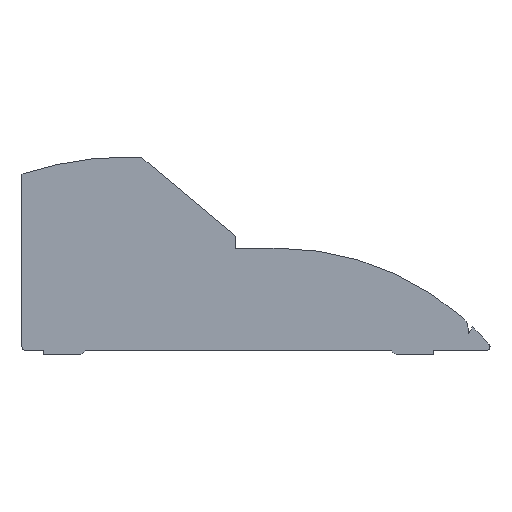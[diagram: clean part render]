
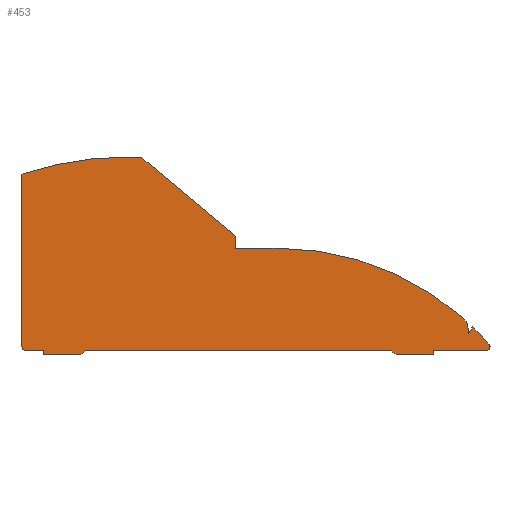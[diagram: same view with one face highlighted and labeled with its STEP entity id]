
A CAD part, left-side view. The second image highlights one B-rep face of the part: STEP entity #453.
In plain terms, the highlighted planar face has unit normal (-1, 0, 0).
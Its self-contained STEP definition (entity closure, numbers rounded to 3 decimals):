
#20=CIRCLE('',#489,162.1);
#29=CIRCLE('',#500,6.);
#30=CIRCLE('',#501,6.);
#31=CIRCLE('',#502,2.);
#32=CIRCLE('',#503,136.5);
#33=CIRCLE('',#504,7.3);
#34=CIRCLE('',#505,136.5);
#35=CIRCLE('',#506,2.);
#74=ORIENTED_EDGE('',*,*,#204,.F.);
#75=ORIENTED_EDGE('',*,*,#205,.T.);
#76=ORIENTED_EDGE('',*,*,#206,.T.);
#77=ORIENTED_EDGE('',*,*,#207,.T.);
#78=ORIENTED_EDGE('',*,*,#176,.F.);
#79=ORIENTED_EDGE('',*,*,#208,.F.);
#80=ORIENTED_EDGE('',*,*,#209,.F.);
#81=ORIENTED_EDGE('',*,*,#210,.F.);
#82=ORIENTED_EDGE('',*,*,#211,.F.);
#83=ORIENTED_EDGE('',*,*,#212,.T.);
#84=ORIENTED_EDGE('',*,*,#213,.F.);
#85=ORIENTED_EDGE('',*,*,#214,.F.);
#86=ORIENTED_EDGE('',*,*,#215,.F.);
#87=ORIENTED_EDGE('',*,*,#216,.F.);
#88=ORIENTED_EDGE('',*,*,#217,.F.);
#89=ORIENTED_EDGE('',*,*,#218,.F.);
#90=ORIENTED_EDGE('',*,*,#219,.T.);
#91=ORIENTED_EDGE('',*,*,#220,.T.);
#92=ORIENTED_EDGE('',*,*,#221,.T.);
#93=ORIENTED_EDGE('',*,*,#181,.T.);
#94=ORIENTED_EDGE('',*,*,#222,.F.);
#95=ORIENTED_EDGE('',*,*,#223,.T.);
#176=EDGE_CURVE('',#242,#243,#286,.T.);
#181=EDGE_CURVE('',#248,#246,#20,.T.);
#204=EDGE_CURVE('',#268,#269,#305,.T.);
#205=EDGE_CURVE('',#268,#270,#306,.T.);
#206=EDGE_CURVE('',#270,#271,#307,.T.);
#207=EDGE_CURVE('',#271,#243,#29,.F.);
#208=EDGE_CURVE('',#272,#242,#30,.T.);
#209=EDGE_CURVE('',#273,#272,#308,.T.);
#210=EDGE_CURVE('',#274,#273,#309,.T.);
#211=EDGE_CURVE('',#275,#274,#310,.T.);
#212=EDGE_CURVE('',#275,#276,#31,.F.);
#213=EDGE_CURVE('',#277,#276,#32,.T.);
#214=EDGE_CURVE('',#278,#277,#311,.T.);
#215=EDGE_CURVE('',#279,#278,#312,.T.);
#216=EDGE_CURVE('',#280,#279,#33,.T.);
#217=EDGE_CURVE('',#281,#280,#34,.T.);
#218=EDGE_CURVE('',#282,#281,#313,.T.);
#219=EDGE_CURVE('',#282,#283,#314,.T.);
#220=EDGE_CURVE('',#283,#284,#315,.T.);
#221=EDGE_CURVE('',#284,#248,#316,.T.);
#222=EDGE_CURVE('',#285,#246,#317,.T.);
#223=EDGE_CURVE('',#285,#269,#35,.F.);
#242=VERTEX_POINT('',#662);
#243=VERTEX_POINT('',#663);
#246=VERTEX_POINT('',#671);
#248=VERTEX_POINT('',#674);
#268=VERTEX_POINT('',#719);
#269=VERTEX_POINT('',#720);
#270=VERTEX_POINT('',#722);
#271=VERTEX_POINT('',#724);
#272=VERTEX_POINT('',#727);
#273=VERTEX_POINT('',#729);
#274=VERTEX_POINT('',#731);
#275=VERTEX_POINT('',#733);
#276=VERTEX_POINT('',#735);
#277=VERTEX_POINT('',#737);
#278=VERTEX_POINT('',#739);
#279=VERTEX_POINT('',#741);
#280=VERTEX_POINT('',#743);
#281=VERTEX_POINT('',#745);
#282=VERTEX_POINT('',#747);
#283=VERTEX_POINT('',#749);
#284=VERTEX_POINT('',#751);
#285=VERTEX_POINT('',#754);
#286=LINE('',#661,#336);
#305=LINE('',#718,#355);
#306=LINE('',#721,#356);
#307=LINE('',#723,#357);
#308=LINE('',#728,#358);
#309=LINE('',#730,#359);
#310=LINE('',#732,#360);
#311=LINE('',#738,#361);
#312=LINE('',#740,#362);
#313=LINE('',#746,#363);
#314=LINE('',#748,#364);
#315=LINE('',#750,#365);
#316=LINE('',#752,#366);
#317=LINE('',#753,#367);
#336=VECTOR('',#531,1000.);
#355=VECTOR('',#574,1000.);
#356=VECTOR('',#575,1000.);
#357=VECTOR('',#576,1000.);
#358=VECTOR('',#581,1000.);
#359=VECTOR('',#582,1000.);
#360=VECTOR('',#583,1000.);
#361=VECTOR('',#588,1000.);
#362=VECTOR('',#589,1000.);
#363=VECTOR('',#594,1000.);
#364=VECTOR('',#595,1000.);
#365=VECTOR('',#596,1000.);
#366=VECTOR('',#597,1000.);
#367=VECTOR('',#598,1000.);
#389=EDGE_LOOP('',(#74,#75,#76,#77,#78,#79,#80,#81,#82,#83,#84,#85,#86,
#87,#88,#89,#90,#91,#92,#93,#94,#95));
#413=FACE_BOUND('',#389,.T.);
#436=PLANE('',#499);
#453=ADVANCED_FACE('',(#413),#436,.F.);
#489=AXIS2_PLACEMENT_3D('',#673,#538,#539);
#499=AXIS2_PLACEMENT_3D('',#717,#572,#573);
#500=AXIS2_PLACEMENT_3D('',#725,#577,#578);
#501=AXIS2_PLACEMENT_3D('',#726,#579,#580);
#502=AXIS2_PLACEMENT_3D('',#734,#584,#585);
#503=AXIS2_PLACEMENT_3D('',#736,#586,#587);
#504=AXIS2_PLACEMENT_3D('',#742,#590,#591);
#505=AXIS2_PLACEMENT_3D('',#744,#592,#593);
#506=AXIS2_PLACEMENT_3D('',#755,#599,#600);
#531=DIRECTION('',(0.,1.,0.));
#538=DIRECTION('',(-1.,0.,0.));
#539=DIRECTION('',(0.,1.,0.));
#572=DIRECTION('',(1.,0.,0.));
#573=DIRECTION('',(0.,1.,0.));
#574=DIRECTION('',(0.,1.,0.));
#575=DIRECTION('',(0.,0.,-1.));
#576=DIRECTION('',(0.,-1.,0.));
#577=DIRECTION('',(1.,0.,0.));
#578=DIRECTION('',(0.,1.,0.));
#579=DIRECTION('',(1.,0.,0.));
#580=DIRECTION('',(0.,1.,0.));
#581=DIRECTION('',(0.,1.,0.));
#582=DIRECTION('',(0.,0.,-1.));
#583=DIRECTION('',(0.,1.,0.));
#584=DIRECTION('',(1.,0.,0.));
#585=DIRECTION('',(0.,1.,0.));
#586=DIRECTION('',(1.,0.,0.));
#587=DIRECTION('',(0.,1.,0.));
#588=DIRECTION('',(0.,-0.5,0.866));
#589=DIRECTION('',(0.,-0.087,-0.996));
#590=DIRECTION('',(1.,0.,0.));
#591=DIRECTION('',(0.,1.,0.));
#592=DIRECTION('',(1.,0.,0.));
#593=DIRECTION('',(0.,1.,0.));
#594=DIRECTION('',(0.,-1.,0.));
#595=DIRECTION('',(0.,0.,1.));
#596=DIRECTION('',(0.,0.766,0.643));
#597=DIRECTION('',(0.,1.,0.));
#598=DIRECTION('',(0.,0.,1.));
#599=DIRECTION('',(1.,0.,0.));
#600=DIRECTION('',(0.,1.,0.));
#661=CARTESIAN_POINT('',(-1229.,-171.594,0.));
#662=CARTESIAN_POINT('',(-1229.,-121.228,0.));
#663=CARTESIAN_POINT('',(-1229.,27.946,0.));
#671=CARTESIAN_POINT('',(-1229.,58.818,86.189));
#673=CARTESIAN_POINT('',(-1229.,7.7,-67.64));
#674=CARTESIAN_POINT('',(-1229.,7.7,94.46));
#717=CARTESIAN_POINT('',(-1229.,66.,-86.5));
#718=CARTESIAN_POINT('',(-1229.,-171.594,0.));
#719=CARTESIAN_POINT('',(-1229.,48.518,0.));
#720=CARTESIAN_POINT('',(-1229.,56.818,0.));
#721=CARTESIAN_POINT('',(-1229.,48.518,0.));
#722=CARTESIAN_POINT('',(-1229.,48.518,-2.));
#723=CARTESIAN_POINT('',(-1229.,48.518,-2.));
#724=CARTESIAN_POINT('',(-1229.,32.418,-2.));
#725=CARTESIAN_POINT('',(-1229.,32.418,4.));
#726=CARTESIAN_POINT('',(-1229.,-125.7,4.));
#727=CARTESIAN_POINT('',(-1229.,-125.7,-2.));
#728=CARTESIAN_POINT('',(-1229.,-141.8,-2.));
#729=CARTESIAN_POINT('',(-1229.,-141.8,-2.));
#730=CARTESIAN_POINT('',(-1229.,-141.8,0.));
#731=CARTESIAN_POINT('',(-1229.,-141.8,0.));
#732=CARTESIAN_POINT('',(-1229.,-171.594,0.));
#733=CARTESIAN_POINT('',(-1229.,-167.282,0.));
#734=CARTESIAN_POINT('',(-1229.,-167.282,2.));
#735=CARTESIAN_POINT('',(-1229.,-168.788,3.316));
#736=CARTESIAN_POINT('',(-1229.,-66.,-86.5));
#737=CARTESIAN_POINT('',(-1229.,-160.759,11.75));
#738=CARTESIAN_POINT('',(-1229.,-158.852,8.447));
#739=CARTESIAN_POINT('',(-1229.,-158.852,8.447));
#740=CARTESIAN_POINT('',(-1229.,-158.616,11.136));
#741=CARTESIAN_POINT('',(-1229.,-158.616,11.136));
#742=CARTESIAN_POINT('',(-1229.,-151.344,10.5));
#743=CARTESIAN_POINT('',(-1229.,-156.166,15.981));
#744=CARTESIAN_POINT('',(-1229.,-66.,-86.5));
#745=CARTESIAN_POINT('',(-1229.,-66.,50.));
#746=CARTESIAN_POINT('',(-1229.,66.,50.));
#747=CARTESIAN_POINT('',(-1229.,-45.06,50.));
#748=CARTESIAN_POINT('',(-1229.,-45.06,50.));
#749=CARTESIAN_POINT('',(-1229.,-45.06,55.96));
#750=CARTESIAN_POINT('',(-1229.,-45.06,55.96));
#751=CARTESIAN_POINT('',(-1229.,0.823,94.46));
#752=CARTESIAN_POINT('',(-1229.,0.823,94.46));
#753=CARTESIAN_POINT('',(-1229.,58.818,-86.5));
#754=CARTESIAN_POINT('',(-1229.,58.818,2.));
#755=CARTESIAN_POINT('',(-1229.,56.818,2.));
